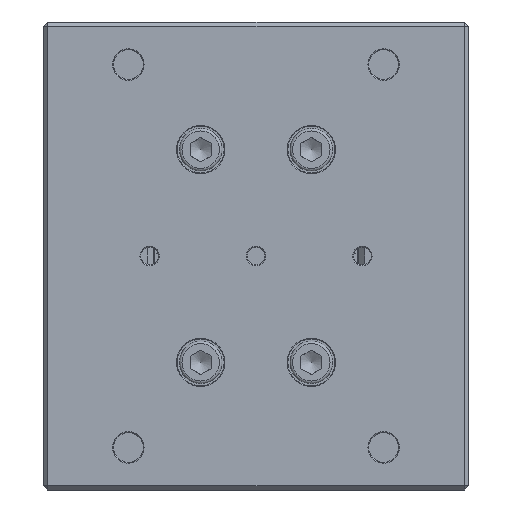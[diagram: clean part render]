
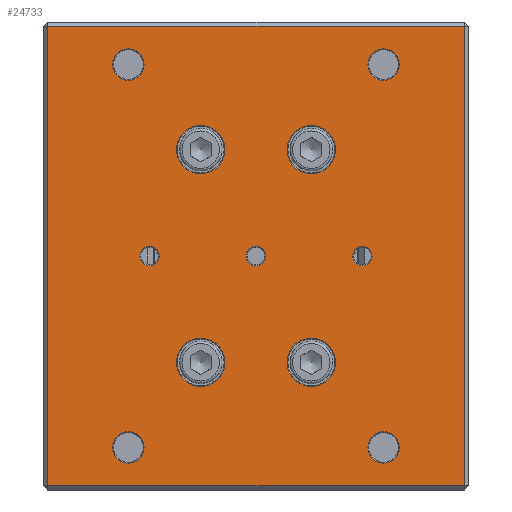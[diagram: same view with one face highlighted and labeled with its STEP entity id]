
A CAD part, front view. The second image highlights one B-rep face of the part: STEP entity #24733.
In plain terms, the highlighted planar face has unit normal (0, -1, 0).
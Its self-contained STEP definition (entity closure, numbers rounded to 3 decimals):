
#1070=FACE_BOUND('',#3527,.T.);
#1071=FACE_BOUND('',#3528,.T.);
#1072=FACE_BOUND('',#3529,.T.);
#1073=FACE_BOUND('',#3530,.T.);
#1074=FACE_BOUND('',#3531,.T.);
#1075=FACE_BOUND('',#3532,.T.);
#1076=FACE_BOUND('',#3533,.T.);
#1077=FACE_BOUND('',#3534,.T.);
#1078=FACE_BOUND('',#3535,.T.);
#1079=FACE_BOUND('',#3536,.T.);
#1080=FACE_BOUND('',#3537,.T.);
#2103=FACE_OUTER_BOUND('',#3526,.T.);
#3526=EDGE_LOOP('',(#19794,#19795,#19796,#19797));
#3527=EDGE_LOOP('',(#19798));
#3528=EDGE_LOOP('',(#19799));
#3529=EDGE_LOOP('',(#19800));
#3530=EDGE_LOOP('',(#19801));
#3531=EDGE_LOOP('',(#19802));
#3532=EDGE_LOOP('',(#19803));
#3533=EDGE_LOOP('',(#19804));
#3534=EDGE_LOOP('',(#19805));
#3535=EDGE_LOOP('',(#19806));
#3536=EDGE_LOOP('',(#19807));
#3537=EDGE_LOOP('',(#19808));
#4357=CIRCLE('',#26391,2.267);
#4364=CIRCLE('',#26402,5.7);
#4367=CIRCLE('',#26407,5.7);
#4374=CIRCLE('',#26418,5.7);
#4377=CIRCLE('',#26423,5.7);
#4379=CIRCLE('',#26427,2.267);
#4382=CIRCLE('',#26431,2.267);
#4399=CIRCLE('',#26460,3.7);
#4401=CIRCLE('',#26464,3.7);
#4413=CIRCLE('',#26485,3.7);
#4415=CIRCLE('',#26489,3.7);
#6130=LINE('',#39288,#8532);
#6131=LINE('',#39290,#8533);
#6132=LINE('',#39292,#8534);
#6133=LINE('',#39293,#8535);
#8532=VECTOR('',#31050,10.);
#8533=VECTOR('',#31051,10.);
#8534=VECTOR('',#31052,10.);
#8535=VECTOR('',#31053,10.);
#10794=VERTEX_POINT('',#38988);
#10801=VERTEX_POINT('',#39008);
#10804=VERTEX_POINT('',#39018);
#10811=VERTEX_POINT('',#39038);
#10814=VERTEX_POINT('',#39048);
#10823=VERTEX_POINT('',#39069);
#10826=VERTEX_POINT('',#39077);
#10842=VERTEX_POINT('',#39132);
#10844=VERTEX_POINT('',#39140);
#10860=VERTEX_POINT('',#39187);
#10862=VERTEX_POINT('',#39195);
#10891=VERTEX_POINT('',#39286);
#10892=VERTEX_POINT('',#39287);
#10893=VERTEX_POINT('',#39289);
#10894=VERTEX_POINT('',#39291);
#13849=EDGE_CURVE('',#10794,#10794,#4357,.T.);
#13858=EDGE_CURVE('',#10801,#10801,#4364,.T.);
#13863=EDGE_CURVE('',#10804,#10804,#4367,.T.);
#13872=EDGE_CURVE('',#10811,#10811,#4374,.T.);
#13877=EDGE_CURVE('',#10814,#10814,#4377,.T.);
#13887=EDGE_CURVE('',#10823,#10823,#4379,.T.);
#13891=EDGE_CURVE('',#10826,#10826,#4382,.T.);
#13918=EDGE_CURVE('',#10842,#10842,#4399,.T.);
#13922=EDGE_CURVE('',#10844,#10844,#4401,.T.);
#13944=EDGE_CURVE('',#10860,#10860,#4413,.T.);
#13948=EDGE_CURVE('',#10862,#10862,#4415,.T.);
#13993=EDGE_CURVE('',#10891,#10892,#6130,.T.);
#13994=EDGE_CURVE('',#10893,#10891,#6131,.T.);
#13995=EDGE_CURVE('',#10894,#10893,#6132,.T.);
#13996=EDGE_CURVE('',#10892,#10894,#6133,.T.);
#19794=ORIENTED_EDGE('',*,*,#13993,.F.);
#19795=ORIENTED_EDGE('',*,*,#13994,.F.);
#19796=ORIENTED_EDGE('',*,*,#13995,.F.);
#19797=ORIENTED_EDGE('',*,*,#13996,.F.);
#19798=ORIENTED_EDGE('',*,*,#13948,.F.);
#19799=ORIENTED_EDGE('',*,*,#13922,.F.);
#19800=ORIENTED_EDGE('',*,*,#13891,.F.);
#19801=ORIENTED_EDGE('',*,*,#13877,.F.);
#19802=ORIENTED_EDGE('',*,*,#13863,.F.);
#19803=ORIENTED_EDGE('',*,*,#13849,.F.);
#19804=ORIENTED_EDGE('',*,*,#13858,.F.);
#19805=ORIENTED_EDGE('',*,*,#13872,.F.);
#19806=ORIENTED_EDGE('',*,*,#13887,.F.);
#19807=ORIENTED_EDGE('',*,*,#13918,.F.);
#19808=ORIENTED_EDGE('',*,*,#13944,.F.);
#22734=PLANE('',#26505);
#24733=ADVANCED_FACE('',(#2103,#1070,#1071,#1072,#1073,#1074,#1075,#1076,
#1077,#1078,#1079,#1080),#22734,.T.);
#26391=AXIS2_PLACEMENT_3D('',#38990,#30735,#30736);
#26402=AXIS2_PLACEMENT_3D('',#39010,#30759,#30760);
#26407=AXIS2_PLACEMENT_3D('',#39020,#30771,#30772);
#26418=AXIS2_PLACEMENT_3D('',#39040,#30795,#30796);
#26423=AXIS2_PLACEMENT_3D('',#39050,#30807,#30808);
#26427=AXIS2_PLACEMENT_3D('',#39071,#30823,#30824);
#26431=AXIS2_PLACEMENT_3D('',#39079,#30832,#30833);
#26460=AXIS2_PLACEMENT_3D('',#39134,#30900,#30901);
#26464=AXIS2_PLACEMENT_3D('',#39142,#30910,#30911);
#26485=AXIS2_PLACEMENT_3D('',#39189,#30962,#30963);
#26489=AXIS2_PLACEMENT_3D('',#39197,#30972,#30973);
#26505=AXIS2_PLACEMENT_3D('',#39285,#31048,#31049);
#30735=DIRECTION('center_axis',(0.,-1.,0.));
#30736=DIRECTION('ref_axis',(1.,0.,0.));
#30759=DIRECTION('center_axis',(0.,-1.,0.));
#30760=DIRECTION('ref_axis',(-1.,0.,0.));
#30771=DIRECTION('center_axis',(0.,-1.,0.));
#30772=DIRECTION('ref_axis',(-1.,0.,0.));
#30795=DIRECTION('center_axis',(0.,-1.,0.));
#30796=DIRECTION('ref_axis',(-1.,0.,0.));
#30807=DIRECTION('center_axis',(0.,-1.,0.));
#30808=DIRECTION('ref_axis',(-1.,0.,0.));
#30823=DIRECTION('center_axis',(0.,-1.,0.));
#30824=DIRECTION('ref_axis',(-1.,0.,0.));
#30832=DIRECTION('center_axis',(0.,-1.,0.));
#30833=DIRECTION('ref_axis',(-1.,0.,0.));
#30900=DIRECTION('center_axis',(0.,-1.,0.));
#30901=DIRECTION('ref_axis',(1.,0.,0.));
#30910=DIRECTION('center_axis',(0.,-1.,0.));
#30911=DIRECTION('ref_axis',(1.,0.,0.));
#30962=DIRECTION('center_axis',(0.,-1.,0.));
#30963=DIRECTION('ref_axis',(1.,0.,0.));
#30972=DIRECTION('center_axis',(0.,-1.,0.));
#30973=DIRECTION('ref_axis',(1.,0.,0.));
#31048=DIRECTION('center_axis',(0.,-1.,0.));
#31049=DIRECTION('ref_axis',(1.,0.,0.));
#31050=DIRECTION('',(-1.,0.,0.));
#31051=DIRECTION('',(0.,0.,-1.));
#31052=DIRECTION('',(1.,0.,0.));
#31053=DIRECTION('',(0.,0.,1.));
#38988=CARTESIAN_POINT('',(-31.398,55.583,-140.867));
#38990=CARTESIAN_POINT('Origin',(-29.131,55.583,-140.867));
#39008=CARTESIAN_POINT('',(-36.431,55.583,-165.867));
#39010=CARTESIAN_POINT('Origin',(-42.131,55.583,-165.867));
#39018=CARTESIAN_POINT('',(-10.431,55.583,-165.867));
#39020=CARTESIAN_POINT('Origin',(-16.131,55.583,-165.867));
#39038=CARTESIAN_POINT('',(-36.431,55.583,-115.867));
#39040=CARTESIAN_POINT('Origin',(-42.131,55.583,-115.867));
#39048=CARTESIAN_POINT('',(-10.431,55.583,-115.867));
#39050=CARTESIAN_POINT('Origin',(-16.131,55.583,-115.867));
#39069=CARTESIAN_POINT('',(-1.864,55.583,-140.867));
#39071=CARTESIAN_POINT('Origin',(-4.131,55.583,-140.867));
#39077=CARTESIAN_POINT('',(-51.864,55.583,-140.867));
#39079=CARTESIAN_POINT('Origin',(-54.131,55.583,-140.867));
#39132=CARTESIAN_POINT('',(-2.831,55.583,-185.867));
#39134=CARTESIAN_POINT('Origin',(0.869,55.583,-185.867));
#39140=CARTESIAN_POINT('',(-62.831,55.583,-185.867));
#39142=CARTESIAN_POINT('Origin',(-59.131,55.583,-185.867));
#39187=CARTESIAN_POINT('',(-2.831,55.583,-95.867));
#39189=CARTESIAN_POINT('Origin',(0.869,55.583,-95.867));
#39195=CARTESIAN_POINT('',(-62.831,55.583,-95.867));
#39197=CARTESIAN_POINT('Origin',(-59.131,55.583,-95.867));
#39285=CARTESIAN_POINT('Origin',(-79.131,55.583,-195.867));
#39286=CARTESIAN_POINT('',(19.869,55.583,-194.867));
#39287=CARTESIAN_POINT('',(-78.131,55.583,-194.867));
#39288=CARTESIAN_POINT('',(-54.131,55.583,-194.867));
#39289=CARTESIAN_POINT('',(19.869,55.583,-86.867));
#39290=CARTESIAN_POINT('',(19.869,55.583,-195.867));
#39291=CARTESIAN_POINT('',(-78.131,55.583,-86.867));
#39292=CARTESIAN_POINT('',(-54.131,55.583,-86.867));
#39293=CARTESIAN_POINT('',(-78.131,55.583,-195.867));
